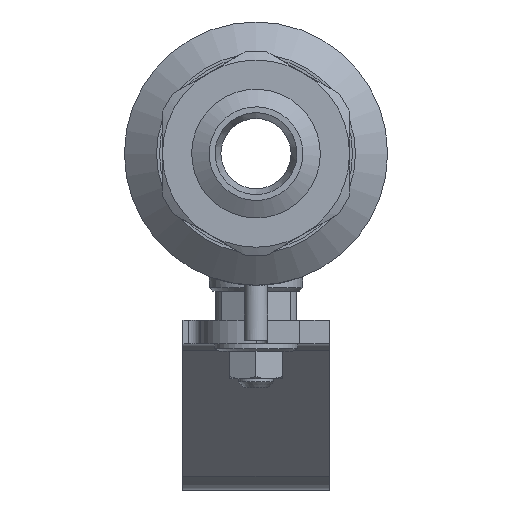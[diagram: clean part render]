
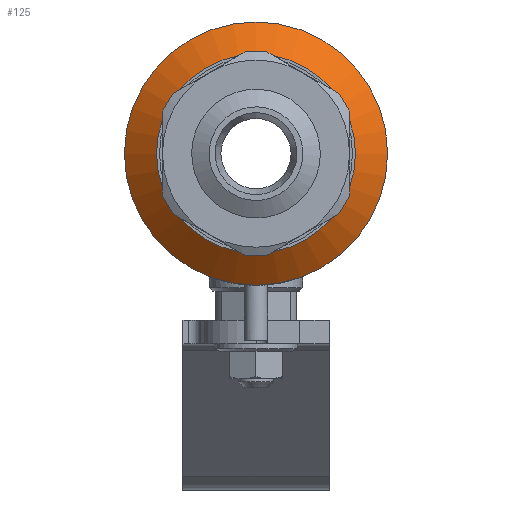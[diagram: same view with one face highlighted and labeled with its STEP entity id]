
A CAD part, left-side view. The second image highlights one B-rep face of the part: STEP entity #125.
In plain terms, the highlighted conical face has half-angle 50 degrees and reference radius 19.75 mm.
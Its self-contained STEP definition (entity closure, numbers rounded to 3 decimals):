
#125=ADVANCED_FACE('',(#1320),#1322,.T.);
#1320=FACE_OUTER_BOUND('',#1321,.T.);
#1321=EDGE_LOOP('',(#2913,#2914,#2915,#2916));
#1322=CONICAL_SURFACE('',#1323,19.75,0.873);
#1323=AXIS2_PLACEMENT_3D('',#1324,#1325,#1326);
#1324=CARTESIAN_POINT('',(-17.692,0.,0.));
#1325=DIRECTION('',(1.,0.,0.));
#1326=DIRECTION('',(0.,1.,0.));
#2913=ORIENTED_EDGE('',*,*,#4492,.T.);
#2914=ORIENTED_EDGE('',*,*,#4460,.T.);
#2915=ORIENTED_EDGE('',*,*,#4492,.F.);
#2916=ORIENTED_EDGE('',*,*,#4493,.F.);
#4460=EDGE_CURVE('',#4945,#4945,#4947,.T.);
#4492=EDGE_CURVE('',#4996,#4945,#4997,.T.);
#4493=EDGE_CURVE('',#4996,#4996,#4998,.T.);
#4945=VERTEX_POINT('',#6213);
#4947=CIRCLE('',#6217,22.5);
#4996=VERTEX_POINT('',#6594);
#4997=LINE('',#6595,#6596);
#4998=CIRCLE('',#6598,17.);
#6213=CARTESIAN_POINT('',(-15.385,-22.5,0.));
#6217=AXIS2_PLACEMENT_3D('',#6218,#6219,#6220);
#6218=CARTESIAN_POINT('',(-15.385,0.,0.));
#6219=DIRECTION('',(-1.,-0.,0.));
#6220=DIRECTION('',(0.,-1.,0.));
#6594=CARTESIAN_POINT('',(-20.,-17.,0.));
#6595=CARTESIAN_POINT('',(-20.,-17.,0.));
#6596=VECTOR('',#6597,1.);
#6597=DIRECTION('',(0.643,-0.766,0.));
#6598=AXIS2_PLACEMENT_3D('',#6599,#6600,#6601);
#6599=CARTESIAN_POINT('',(-20.,0.,0.));
#6600=DIRECTION('',(-1.,-0.,-0.));
#6601=DIRECTION('',(0.,-1.,0.));
